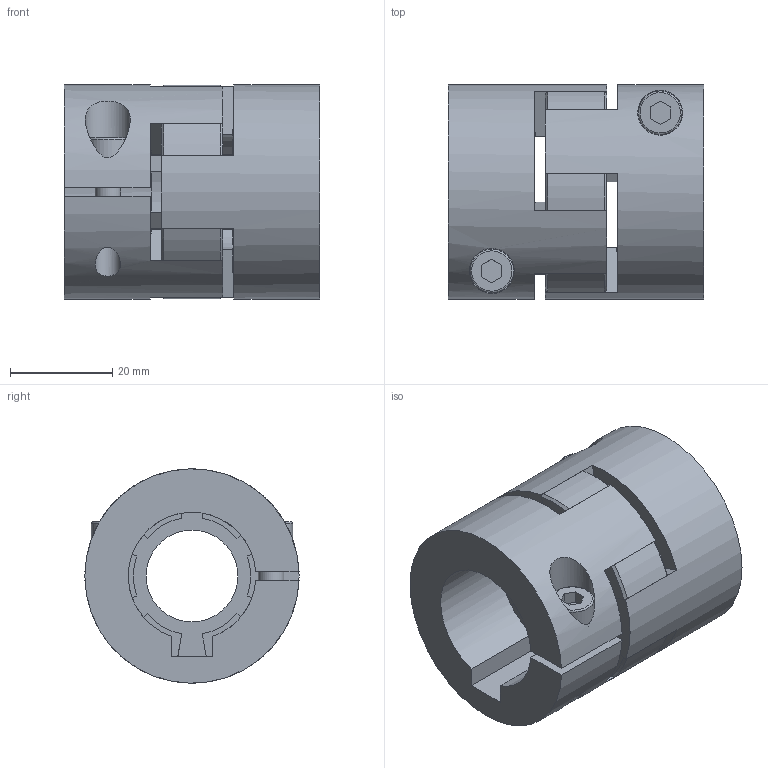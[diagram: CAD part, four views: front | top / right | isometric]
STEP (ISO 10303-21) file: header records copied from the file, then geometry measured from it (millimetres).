
FILE_DESCRIPTION(/* description */ ('STEP AP214'),/* implementation_level */ '2;1');
FILE_NAME(/* name */ 'C:\Diequa Files\DieQua Coupling\ECC\STP\ECC.20.ABC.#.#.stp',/* time_stamp */ '2018-12-07T11:24:48-06:00',/* author */ ('DiequaCAD'),/* organization */ (''),/* preprocessor_version */ 'ST-DEVELOPER v17.2',/* originating_system */ 'Autodesk Inventor 2019',/* authorisation */ ' ');
FILE_SCHEMA (('AUTOMOTIVE_DESIGN { 1 0 10303 214 3 1 1 }'));
Length unit declared in the file: millimetre
Products named in the file (4): EKL_20_A_25_PFN_25_PFN_27; 2018_11_29__15-36-44-353; 2018_11_29__15-36-44-353_1; 2018_11_29__15-36-44-353_2
Assembly tree (3 placements, depth 2):
  EKL_20_A_25_PFN_25_PFN_27
    2018_11_29__15-36-44-353
    2018_11_29__15-36-44-353_1
    2018_11_29__15-36-44-353_2
Bounding box: 50 x 42 x 42 mm (x, y, z)
Volume: 42918.4 mm3; surface area: 20093.7 mm2
Topology: 3 solids, 3 shells, 129 faces, 361 edges, 248 vertices
Faces by surface type: plane 80, cylinder 35, cone 12, torus 2
Full cylindrical faces by diameter (mm): 5 x4, 5.5 x2, 8.5 x2, 8.8 x2, 18 x1
Entity records: 4515 total; most frequent: CARTESIAN_POINT 897, DIRECTION 749, ORIENTED_EDGE 722, EDGE_CURVE 361, AXIS2_PLACEMENT_3D 260, VERTEX_POINT 248, LINE 229, VECTOR 229
